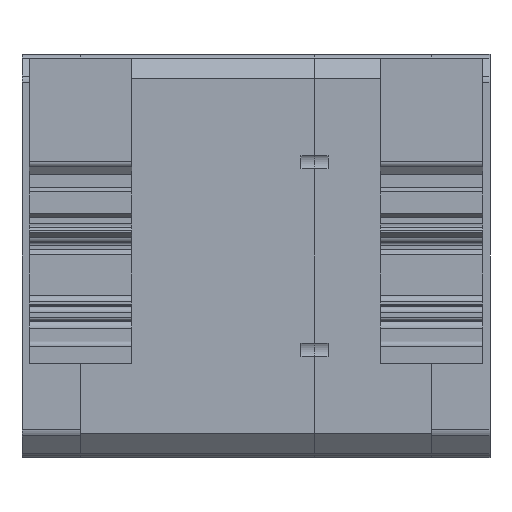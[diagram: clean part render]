
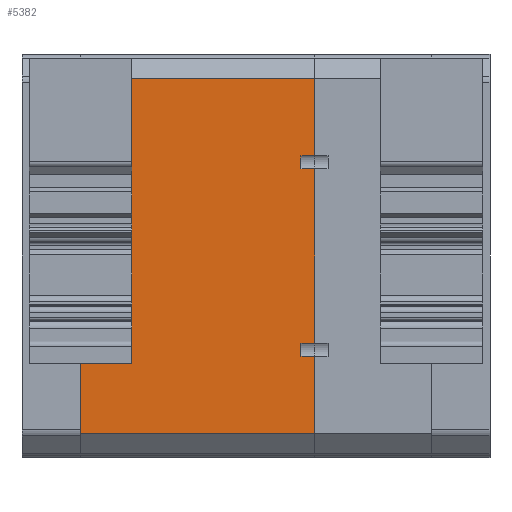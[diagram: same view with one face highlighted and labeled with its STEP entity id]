
A CAD part, front view. The second image highlights one B-rep face of the part: STEP entity #5382.
In plain terms, the highlighted planar face has unit normal (0, -1, 0).
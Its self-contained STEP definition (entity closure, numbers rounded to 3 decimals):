
#121=DIRECTION('',(0.,0.,-1.));
#122=VECTOR('',#121,14.835);
#123=CARTESIAN_POINT('',(-22.5,-3.85,-19.25));
#124=LINE('',#123,#122);
#465=DIRECTION('',(0.,0.,-1.));
#466=VECTOR('',#465,14.835);
#467=CARTESIAN_POINT('',(-22.5,-3.85,34.085));
#468=LINE('',#467,#466);
#510=DIRECTION('',(0.,0.,-1.));
#511=VECTOR('',#510,33.5);
#512=CARTESIAN_POINT('',(-22.5,-3.85,16.75));
#513=LINE('',#512,#511);
#1422=DIRECTION('',(0.,0.,1.));
#1423=VECTOR('',#1422,2.5);
#1424=CARTESIAN_POINT('',(-19.9,-3.85,-19.25));
#1425=LINE('',#1424,#1423);
#1429=DIRECTION('',(1.,0.,0.));
#1430=VECTOR('',#1429,2.6);
#1431=CARTESIAN_POINT('',(-22.5,-3.85,-16.75));
#1432=LINE('',#1431,#1430);
#1436=DIRECTION('',(1.,0.,0.));
#1437=VECTOR('',#1436,2.6);
#1438=CARTESIAN_POINT('',(-22.5,-3.85,16.75));
#1439=LINE('',#1438,#1437);
#1443=DIRECTION('',(0.,0.,-1.));
#1444=VECTOR('',#1443,2.5);
#1445=CARTESIAN_POINT('',(-19.9,-3.85,19.25));
#1446=LINE('',#1445,#1444);
#1450=DIRECTION('',(1.,0.,0.));
#1451=VECTOR('',#1450,2.6);
#1452=CARTESIAN_POINT('',(-22.5,-3.85,19.25));
#1453=LINE('',#1452,#1451);
#1457=DIRECTION('',(1.,0.,0.));
#1458=VECTOR('',#1457,45.);
#1459=CARTESIAN_POINT('',(-22.5,-3.85,34.085));
#1460=LINE('',#1459,#1458);
#1464=DIRECTION('',(-1.,0.,0.));
#1465=VECTOR('',#1464,2.6);
#1466=CARTESIAN_POINT('',(22.5,-3.85,19.25));
#1467=LINE('',#1466,#1465);
#1471=DIRECTION('',(0.,0.,-1.));
#1472=VECTOR('',#1471,2.5);
#1473=CARTESIAN_POINT('',(19.9,-3.85,19.25));
#1474=LINE('',#1473,#1472);
#1478=DIRECTION('',(-1.,0.,0.));
#1479=VECTOR('',#1478,2.6);
#1480=CARTESIAN_POINT('',(22.5,-3.85,16.75));
#1481=LINE('',#1480,#1479);
#1485=DIRECTION('',(-1.,0.,0.));
#1486=VECTOR('',#1485,2.6);
#1487=CARTESIAN_POINT('',(22.5,-3.85,-16.75));
#1488=LINE('',#1487,#1486);
#1492=DIRECTION('',(0.,0.,1.));
#1493=VECTOR('',#1492,2.5);
#1494=CARTESIAN_POINT('',(19.9,-3.85,-19.25));
#1495=LINE('',#1494,#1493);
#1499=DIRECTION('',(-1.,0.,0.));
#1500=VECTOR('',#1499,2.6);
#1501=CARTESIAN_POINT('',(22.5,-3.85,-19.25));
#1502=LINE('',#1501,#1500);
#1506=DIRECTION('',(1.,0.,0.));
#1507=VECTOR('',#1506,2.6);
#1508=CARTESIAN_POINT('',(-22.5,-3.85,-19.25));
#1509=LINE('',#1508,#1507);
#1869=DIRECTION('',(0.,0.,-1.));
#1870=VECTOR('',#1869,33.5);
#1871=CARTESIAN_POINT('',(22.5,-3.85,16.75));
#1872=LINE('',#1871,#1870);
#1914=DIRECTION('',(0.,0.,-1.));
#1915=VECTOR('',#1914,14.835);
#1916=CARTESIAN_POINT('',(22.5,-3.85,34.085));
#1917=LINE('',#1916,#1915);
#2258=DIRECTION('',(0.,0.,-1.));
#2259=VECTOR('',#2258,14.835);
#2260=CARTESIAN_POINT('',(22.5,-3.85,-19.25));
#2261=LINE('',#2260,#2259);
#3665=DIRECTION('',(1.,0.,0.));
#3666=VECTOR('',#3665,45.);
#3667=CARTESIAN_POINT('',(-22.5,-3.85,-34.085));
#3668=LINE('',#3667,#3666);
#3926=CARTESIAN_POINT('',(22.5,-3.85,19.25));
#3928=VERTEX_POINT('',#3926);
#3930=CARTESIAN_POINT('',(22.5,-3.85,16.75));
#3932=VERTEX_POINT('',#3930);
#3934=CARTESIAN_POINT('',(22.5,-3.85,34.085));
#3935=VERTEX_POINT('',#3934);
#3936=CARTESIAN_POINT('',(19.9,-3.85,19.25));
#3937=CARTESIAN_POINT('',(19.9,-3.85,16.75));
#3938=VERTEX_POINT('',#3936);
#3939=VERTEX_POINT('',#3937);
#3956=CARTESIAN_POINT('',(22.5,-3.85,-19.25));
#3958=VERTEX_POINT('',#3956);
#3960=CARTESIAN_POINT('',(22.5,-3.85,-16.75));
#3962=VERTEX_POINT('',#3960);
#3964=CARTESIAN_POINT('',(19.9,-3.85,-19.25));
#3965=CARTESIAN_POINT('',(19.9,-3.85,-16.75));
#3966=VERTEX_POINT('',#3964);
#3967=VERTEX_POINT('',#3965);
#3972=CARTESIAN_POINT('',(22.5,-3.85,-34.085));
#3973=VERTEX_POINT('',#3972);
#3986=CARTESIAN_POINT('',(-22.5,-3.85,19.25));
#3988=VERTEX_POINT('',#3986);
#3990=CARTESIAN_POINT('',(-22.5,-3.85,16.75));
#3992=VERTEX_POINT('',#3990);
#3994=CARTESIAN_POINT('',(-19.9,-3.85,19.25));
#3995=CARTESIAN_POINT('',(-19.9,-3.85,16.75));
#3996=VERTEX_POINT('',#3994);
#3997=VERTEX_POINT('',#3995);
#4002=CARTESIAN_POINT('',(-22.5,-3.85,34.085));
#4003=VERTEX_POINT('',#4002);
#4016=CARTESIAN_POINT('',(-22.5,-3.85,-19.25));
#4018=VERTEX_POINT('',#4016);
#4020=CARTESIAN_POINT('',(-22.5,-3.85,-16.75));
#4022=VERTEX_POINT('',#4020);
#4024=CARTESIAN_POINT('',(-19.9,-3.85,-19.25));
#4025=CARTESIAN_POINT('',(-19.9,-3.85,-16.75));
#4026=VERTEX_POINT('',#4024);
#4027=VERTEX_POINT('',#4025);
#4032=CARTESIAN_POINT('',(-22.5,-3.85,-34.085));
#4033=VERTEX_POINT('',#4032);
#5340=CARTESIAN_POINT('',(-22.5,-3.85,34.085));
#5341=DIRECTION('',(0.,-1.,0.));
#5342=DIRECTION('',(0.,0.,-1.));
#5343=AXIS2_PLACEMENT_3D('',#5340,#5341,#5342);
#5344=PLANE('',#5343);
#5345=ORIENTED_EDGE('',*,*,#5331,.T.);
#5347=ORIENTED_EDGE('',*,*,#5346,.F.);
#5348=ORIENTED_EDGE('',*,*,#4425,.F.);
#5350=ORIENTED_EDGE('',*,*,#5349,.T.);
#5352=ORIENTED_EDGE('',*,*,#5351,.F.);
#5354=ORIENTED_EDGE('',*,*,#5353,.F.);
#5355=ORIENTED_EDGE('',*,*,#4413,.F.);
#5357=ORIENTED_EDGE('',*,*,#5356,.T.);
#5359=ORIENTED_EDGE('',*,*,#5358,.T.);
#5361=ORIENTED_EDGE('',*,*,#5360,.T.);
#5363=ORIENTED_EDGE('',*,*,#5362,.T.);
#5365=ORIENTED_EDGE('',*,*,#5364,.F.);
#5367=ORIENTED_EDGE('',*,*,#5366,.T.);
#5369=ORIENTED_EDGE('',*,*,#5368,.T.);
#5371=ORIENTED_EDGE('',*,*,#5370,.F.);
#5373=ORIENTED_EDGE('',*,*,#5372,.F.);
#5375=ORIENTED_EDGE('',*,*,#5374,.T.);
#5377=ORIENTED_EDGE('',*,*,#5376,.F.);
#5378=ORIENTED_EDGE('',*,*,#4317,.F.);
#5379=ORIENTED_EDGE('',*,*,#5300,.T.);
#5380=EDGE_LOOP('',(#5345,#5347,#5348,#5350,#5352,#5354,#5355,#5357,#5359,#5361,
#5363,#5365,#5367,#5369,#5371,#5373,#5375,#5377,#5378,#5379));
#5381=FACE_OUTER_BOUND('',#5380,.F.);
#4317=EDGE_CURVE('',#4018,#4033,#124,.T.);
#4413=EDGE_CURVE('',#4003,#3988,#468,.T.);
#4425=EDGE_CURVE('',#3992,#4022,#513,.T.);
#5300=EDGE_CURVE('',#4018,#4026,#1509,.T.);
#5331=EDGE_CURVE('',#4026,#4027,#1425,.T.);
#5346=EDGE_CURVE('',#4022,#4027,#1432,.T.);
#5349=EDGE_CURVE('',#3992,#3997,#1439,.T.);
#5351=EDGE_CURVE('',#3996,#3997,#1446,.T.);
#5353=EDGE_CURVE('',#3988,#3996,#1453,.T.);
#5356=EDGE_CURVE('',#4003,#3935,#1460,.T.);
#5358=EDGE_CURVE('',#3935,#3928,#1917,.T.);
#5360=EDGE_CURVE('',#3928,#3938,#1467,.T.);
#5362=EDGE_CURVE('',#3938,#3939,#1474,.T.);
#5364=EDGE_CURVE('',#3932,#3939,#1481,.T.);
#5366=EDGE_CURVE('',#3932,#3962,#1872,.T.);
#5368=EDGE_CURVE('',#3962,#3967,#1488,.T.);
#5370=EDGE_CURVE('',#3966,#3967,#1495,.T.);
#5372=EDGE_CURVE('',#3958,#3966,#1502,.T.);
#5374=EDGE_CURVE('',#3958,#3973,#2261,.T.);
#5376=EDGE_CURVE('',#4033,#3973,#3668,.T.);
#5382=ADVANCED_FACE('',(#5381),#5344,.T.);
